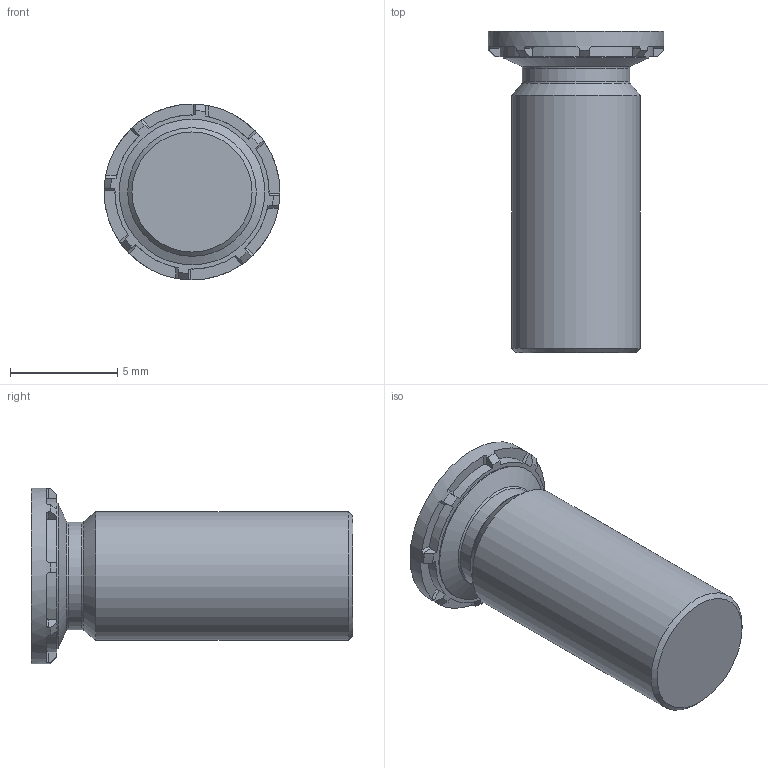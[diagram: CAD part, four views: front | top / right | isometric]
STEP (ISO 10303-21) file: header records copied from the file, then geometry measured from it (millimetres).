
FILE_DESCRIPTION(/* description */ (''),/* implementation_level */ '2;1');
FILE_NAME(/* name */ 'C:\Users\keval.kumar\Desktop\Fastit\Clinch Screw- FH Range\M6\Clinch Screw-FH Range_M6x15.stp',/* time_stamp */ '2024-03-12T12:06:26+06:00',/* author */ ('keval.kumar'),/* organization */ (''),/* preprocessor_version */ 'ST-DEVELOPER v18.1',/* originating_system */ 'Autodesk Inventor 2022',/* authorisation */ '');
FILE_SCHEMA (('AUTOMOTIVE_DESIGN { 1 0 10303 214 3 1 1 }'));
Length unit declared in the file: millimetre
Products named in the file (1): Clinch Screw-FH Range_M6x15
Bounding box: 8.2 x 15 x 8.2 mm (x, y, z)
Volume: 439 mm3; surface area: 397.3 mm2
Topology: 1 solids, 1 shells, 68 faces, 193 edges, 128 vertices
Faces by surface type: plane 43, cylinder 12, cone 11, torus 2
Full cylindrical faces by diameter (mm): 5 x1, 6 x1, 6.8 x1, 8.2 x1
Entity records: 2278 total; most frequent: CARTESIAN_POINT 422, DIRECTION 405, ORIENTED_EDGE 386, EDGE_CURVE 193, AXIS2_PLACEMENT_3D 159, VERTEX_POINT 128, LINE 87, VECTOR 87
